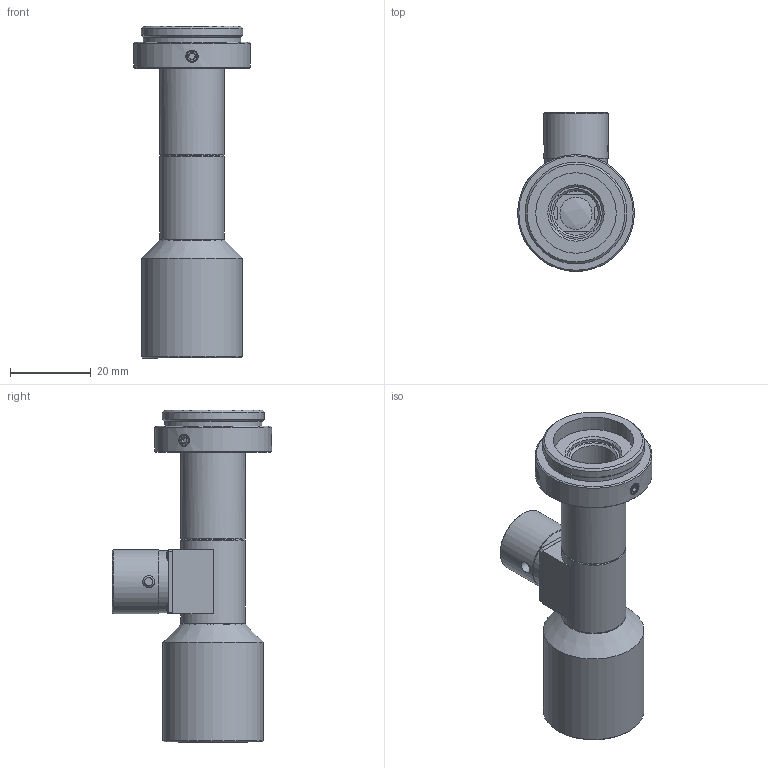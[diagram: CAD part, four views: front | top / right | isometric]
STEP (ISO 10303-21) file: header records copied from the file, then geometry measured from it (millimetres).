
FILE_DESCRIPTION(('STEP AP214'),'1');
FILE_NAME('RTK-1F-M65.stp','2026-07-31T06:30:47',(' '),(' '),'Spatial InterOp 3D',' ',' ');
FILE_SCHEMA(('AUTOMOTIVE_DESIGN { 1 0 10303 214 1 1 1 1 }'));
Length unit declared in the file: metre
Products named in the file (2): RTK-1F-M65; Component1
Assembly tree (1 placements, depth 2):
  RTK-1F-M65
    Component1
Bounding box: 29 x 39.5 x 82.44 mm (x, y, z)
Volume: 17342.9 mm3; surface area: 14295.8 mm2
Topology: 1 solids, 13 shells, 350 faces, 834 edges, 546 vertices
Faces by surface type: plane 169, cone 90, cylinder 74, torus 8, sphere 6, bspline 3
Full cylindrical faces by diameter (mm): 1.7 x8, 1.8 x4, 2.5 x3, 3 x3, 6.5 x1, 8 x2, 9 x1, 10 x1, 11 x1, 12.7 x1, 13 x2, 13.4 x1, 13.7 x1, 14 x2, 14.2 x3, 15.5 x1, 16 x5, 18 x2, 19.5 x2, 20 x2, 20.5 x1, 23 x2, 23.8 x1, 24.12 x1, 25 x1, 25.32 x1, 29 x1
Entity records: 12700 total; most frequent: CARTESIAN_POINT 2434, DIRECTION 1588, ORIENTED_EDGE 1316, AXIS2_PLACEMENT_3D 668, EDGE_CURVE 658, EDGE_LOOP 522, VERTEX_POINT 493, FACE_OUTER_BOUND 415
